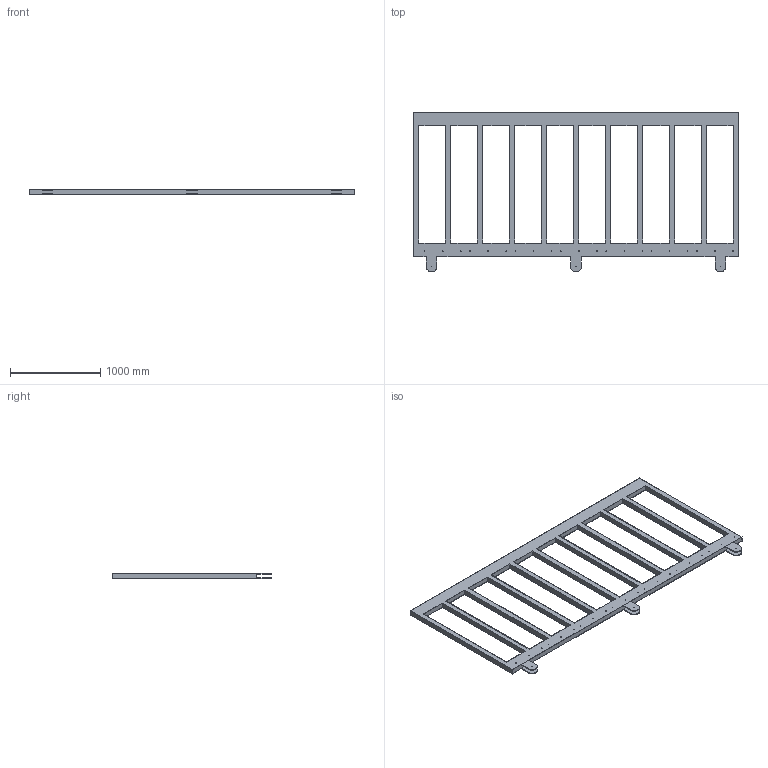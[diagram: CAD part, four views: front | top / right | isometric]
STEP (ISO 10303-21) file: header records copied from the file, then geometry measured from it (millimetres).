
FILE_DESCRIPTION (( 'STEP AP203' ), '1' );
FILE_NAME ('Portail_3m.STEP', '2025-09-18T11:56:58', ( '' ), ( '' ), 'SwSTEP 2.0', 'SolidWorks 2019', '' );
FILE_SCHEMA (( 'CONFIG_CONTROL_DESIGN' ));
Length unit declared in the file: millimetre
Products named in the file (1): Portail_3m
Bounding box: 3600 x 1770 x 60 mm (x, y, z)
Volume: 19617873.1 mm3; surface area: 12573766.6 mm2
Topology: 1 solids, 1 shells, 212 faces, 624 edges, 416 vertices
Faces by surface type: plane 110, cylinder 102
Entity records: 7457 total; most frequent: DIRECTION 1254, CARTESIAN_POINT 1253, ORIENTED_EDGE 1248, EDGE_CURVE 624, LINE 420, VECTOR 420, AXIS2_PLACEMENT_3D 417, VERTEX_POINT 416
